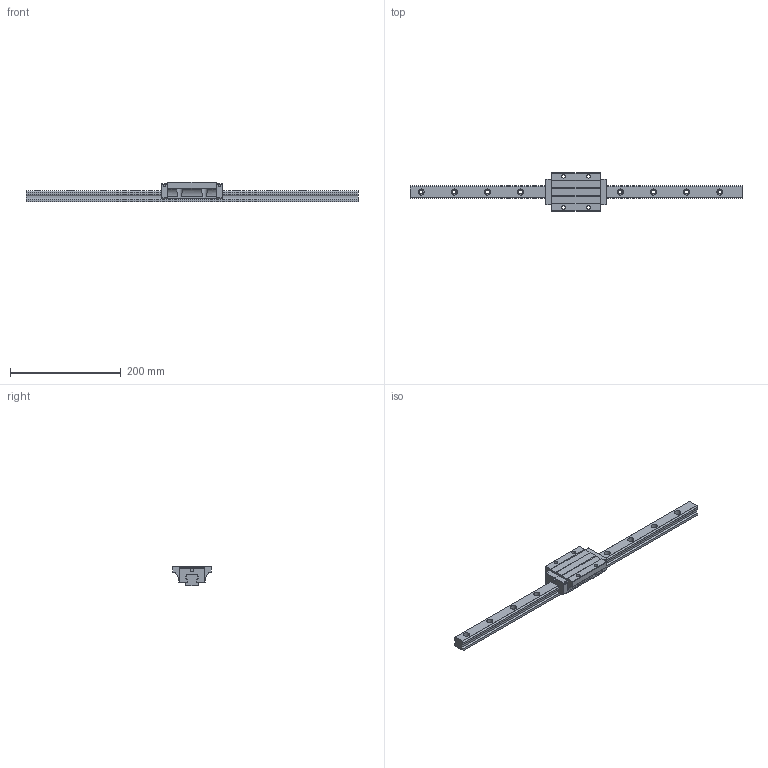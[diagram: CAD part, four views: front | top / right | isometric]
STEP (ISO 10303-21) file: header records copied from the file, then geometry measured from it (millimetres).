
FILE_DESCRIPTION (( 'STEP AP203' ), '1' );
FILE_NAME ('TRH25FE-XN.STEP', '2024-05-09T06:57:49', ( '' ), ( '' ), 'SwSTEP 2.0', 'SolidWorks 2022', '' );
FILE_SCHEMA (( 'CONFIG_CONTROL_DESIGN' ));
Length unit declared in the file: millimetre
Products named in the file (1): TRH25FE-XN
Bounding box: 600 x 70 x 36 mm (x, y, z)
Volume: 373833.3 mm3; surface area: 86817.6 mm2
Topology: 2 solids, 2 shells, 230 faces, 622 edges, 408 vertices
Faces by surface type: cylinder 130, plane 96, sphere 4
Entity records: 7853 total; most frequent: CARTESIAN_POINT 1797, DIRECTION 1276, ORIENTED_EDGE 1236, EDGE_CURVE 618, AXIS2_PLACEMENT_3D 459, VERTEX_POINT 408, LINE 358, VECTOR 358
